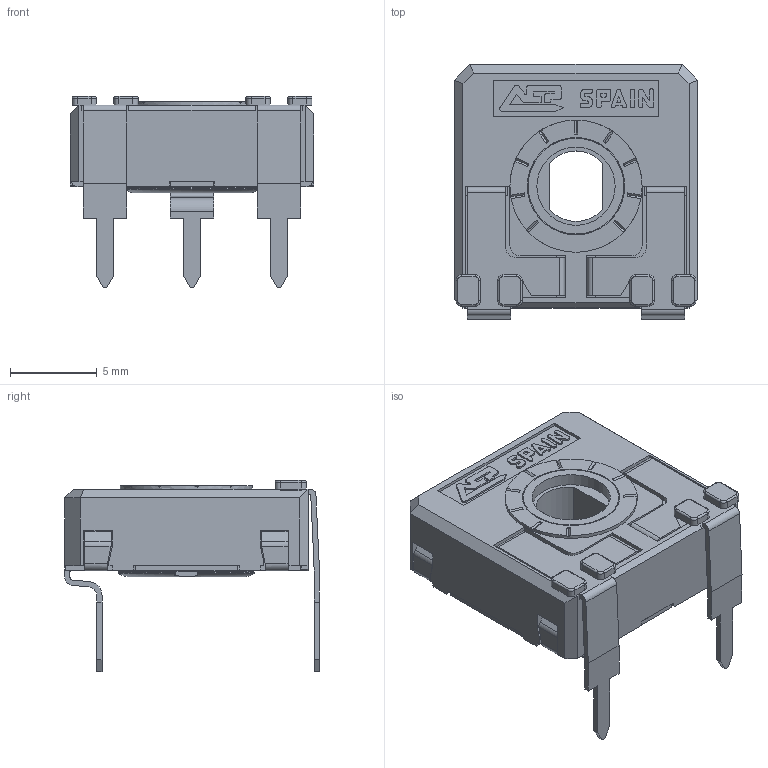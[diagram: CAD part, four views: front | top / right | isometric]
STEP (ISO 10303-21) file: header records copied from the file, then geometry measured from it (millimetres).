
FILE_DESCRIPTION(/* description */ (''),/* implementation_level */ '2;1');
FILE_NAME(/* name */ 'C:\Users\CEM\Desktop\ENVIAR\TRANSICION 3D CATALOGOS\RS14ZV12,5.stp',/* time_stamp */ '2025-12-10T11:34:50+01:00',/* author */ ('CEM'),/* organization */ (''),/* preprocessor_version */ 'ST-DEVELOPER v16.13',/* originating_system */ 'Autodesk Inventor 2018',/* authorisation */ '');
FILE_SCHEMA (('AUTOMOTIVE_DESIGN { 1 0 10303 214 3 1 1 }'));
Length unit declared in the file: millimetre
Products named in the file (1): CARCASA CA14 PGA
Bounding box: 14 x 14.65 x 11 mm (x, y, z)
Volume: 529.4 mm3; surface area: 1475.5 mm2
Topology: 1 solids, 1 shells, 679 faces, 1914 edges, 1232 vertices
Faces by surface type: plane 499, cylinder 143, torus 23, bspline 8, cone 6
Full cylindrical faces by diameter (mm): 4.5 x1, 5.5 x1, 5.6 x1, 5.752 x1, 6.8 x1, 7.6 x1
Entity records: 22022 total; most frequent: CARTESIAN_POINT 4020, ORIENTED_EDGE 3800, DIRECTION 3588, EDGE_CURVE 1900, LINE 1500, VECTOR 1500, VERTEX_POINT 1228, AXIS2_PLACEMENT_3D 1044
